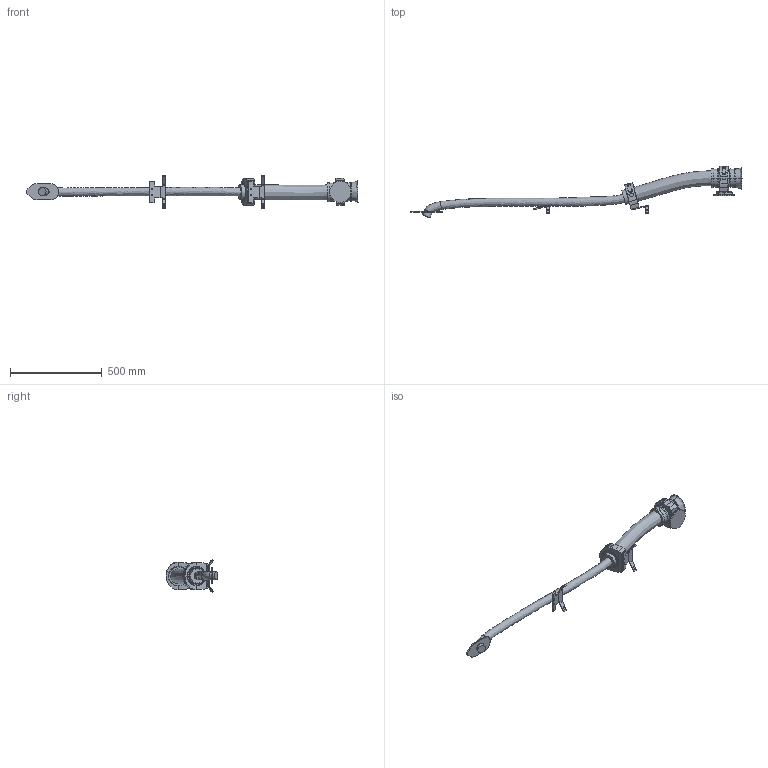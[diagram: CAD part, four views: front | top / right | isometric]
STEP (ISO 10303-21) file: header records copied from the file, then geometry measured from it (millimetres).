
FILE_DESCRIPTION (( 'STEP AP203' ), '1' );
FILE_NAME ('IRB6730S-LID_ALL-400-OC_00_LINK04_CABLE.step', '2025-12-19T13:40:18', ( '' ), ( '' ), 'SwSTEP 2.0', 'SolidWorks 2024', '' );
FILE_SCHEMA (( 'CONFIG_CONTROL_DESIGN' ));
Length unit declared in the file: millimetre
Products named in the file (1): IRB6730S-LID_ALL-400-OC_00_LINK04_CABLE
Bounding box: 1810.77 x 282.8 x 174.65 mm (x, y, z)
Volume: 6831712.2 mm3; surface area: 530086.4 mm2
Topology: 1 solids, 2 shells, 427 faces, 1070 edges, 682 vertices
Faces by surface type: plane 240, cylinder 139, cone 18, bspline 15, sphere 13, torus 2
Full cylindrical faces by diameter (mm): 6 x2, 6.8 x4, 10.22 x2, 12 x4, 45 x1, 80 x1, 90 x1
Entity records: 17097 total; most frequent: CARTESIAN_POINT 6985, DIRECTION 2078, ORIENTED_EDGE 2076, EDGE_CURVE 1038, AXIS2_PLACEMENT_3D 758, VERTEX_POINT 670, LINE 562, VECTOR 562
